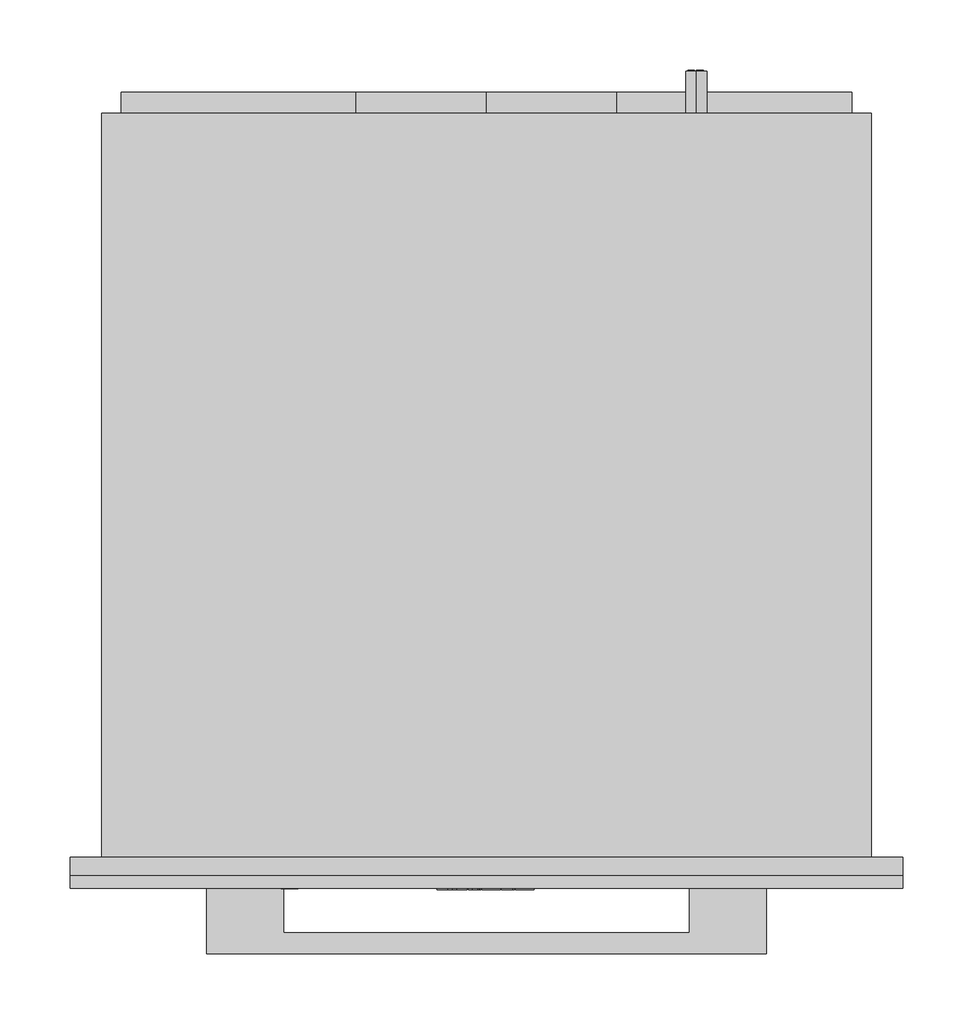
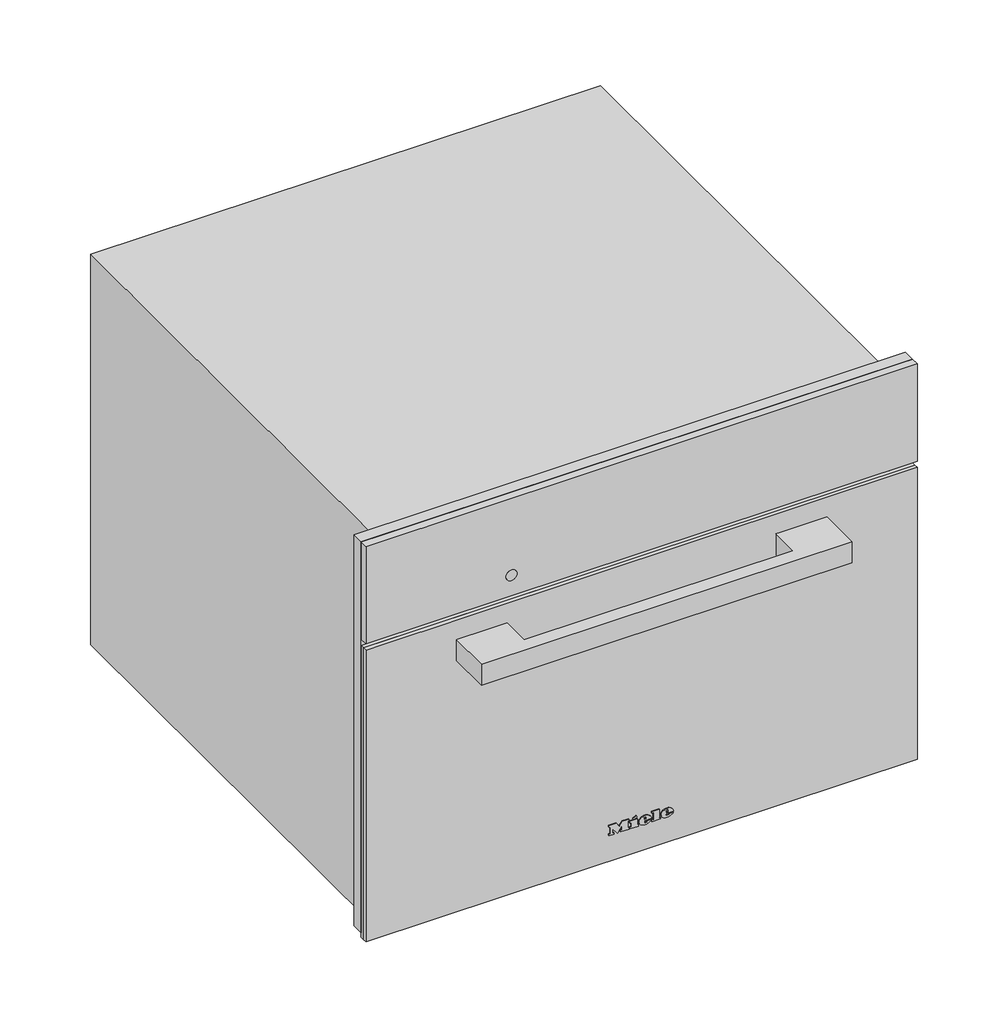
# Not in any storey: 1 proxy.
"""IFC4 building model written with IfcOpenShell, lengths in millimetres."""

from ifc_helpers import new_model, si_unit, origin, place, context, project, spatial, transform, mapped, element, save
from components import specialty_equipment_9c9476c8

model = new_model("IFC4")

# Units and contexts
model_context = context("Model", 3, world=origin())
ifc_project = project(units=[si_unit("LENGTHUNIT", "METRE", prefix="MILLI")], contexts=[model_context])

# Site, building
site = spatial("IfcSite", under=ifc_project)
building = spatial("IfcBuilding", under=site)

# Proxy
placement = place(None, origin())
specialty_equipment_shape = specialty_equipment_9c9476c8(model_context)
element("IfcBuildingElementProxy", 1, Name="11099640_F_DG2840_OBSW : 23284020_F_11099640_DG2840_OBSW", ObjectType="11099640_F_DG2840_OBSW : 23284020_F_11099640_DG2840_OBSW", at=placement, inside=building, context=model_context, shape_type="MappedRepresentation", body=[
    mapped(specialty_equipment_shape, transform((0.0, 0.0, 0.0), x_axis=(1.0, 0.0, 0.0), y_axis=(0.0, 1.0, 0.0), z_axis=(0.0, 0.0, 1.0))),
])

save(model, "model.ifc")
